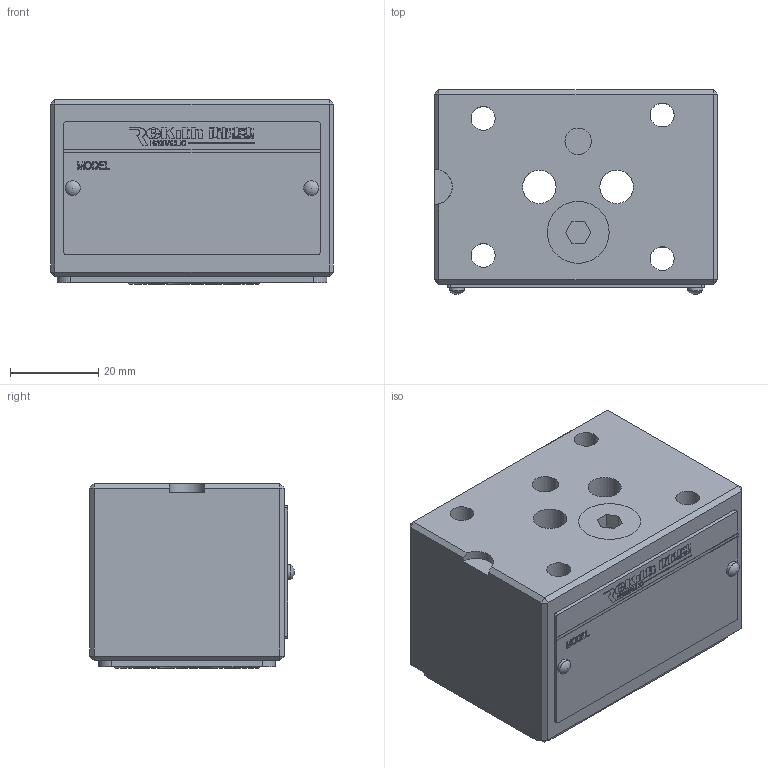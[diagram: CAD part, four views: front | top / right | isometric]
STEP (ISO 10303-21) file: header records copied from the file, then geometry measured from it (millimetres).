
FILE_DESCRIPTION(/* description */ (''),/* implementation_level */ '2;1');
FILE_NAME(/* name */ 'Z1S6F叠加式单向阀.prt.stp',/* time_stamp */ '2022-03-30T19:24:38+08:00',/* author */ (''),/* organization */ (''),/* preprocessor_version */ 'ST-DEVELOPER v16.7',/* originating_system */ 'SIEMENS PLM Software NX 12.0',/* authorisation */ '');
FILE_SCHEMA (('AUTOMOTIVE_DESIGN { 1 0 10303 214 3 1 1 1 }'));
Length unit declared in the file: millimetre
Products named in the file (1): Z1S6F叠加式单向阀
Bounding box: 64 x 46.3 x 41.78 mm (x, y, z)
Volume: 110474.8 mm3; surface area: 29465 mm2
Topology: 11 solids, 11 shells, 1061 faces, 2981 edges, 1976 vertices
Faces by surface type: plane 931, extrusion 77, cylinder 43, torus 4, cone 4, sphere 2
Full cylindrical faces by diameter (mm): 1.8 x4, 2 x2, 2.5 x2, 3.4 x2, 5.4 x4, 5.5 x4, 6 x2, 7.6 x2, 10 x2, 12 x2, 12.2 x4, 14 x4
Entity records: 40369 total; most frequent: CARTESIAN_POINT 6654, ORIENTED_EDGE 5854, DIRECTION 4908, EDGE_CURVE 2927, VECTOR 2762, LINE 2685, VERTEX_POINT 1972, EDGE_LOOP 1171
